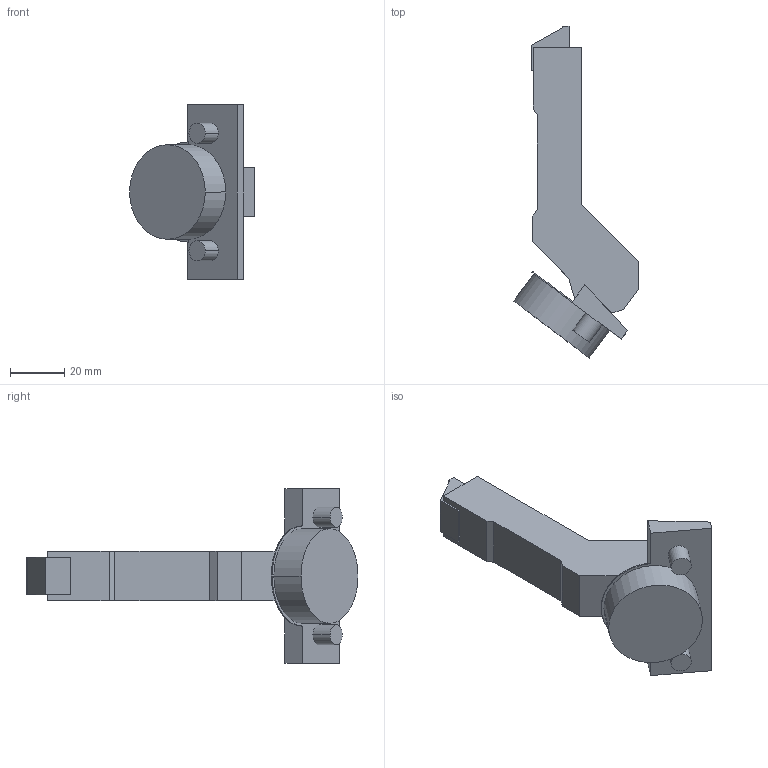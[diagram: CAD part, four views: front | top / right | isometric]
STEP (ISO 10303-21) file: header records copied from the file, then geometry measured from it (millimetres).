
FILE_DESCRIPTION (( 'STEP AP214' ), '1' );
FILE_NAME ('Scharnier T Impresso 110°_+37° GB_BB, einliegend.step', '2010-12-13T10:22:16', ( 'grass' ), ( '' ), 'SwSTEP 2.0', 'SolidWorks 2010', '' );
FILE_SCHEMA (( 'AUTOMOTIVE_DESIGN' ));
Length unit declared in the file: millimetre
Products named in the file (1): Scharnier T Impresso 110°_+37° GB_BB, einliegend
Bounding box: 46.13 x 122.73 x 64.5 mm (x, y, z)
Volume: 57976.6 mm3; surface area: 15047.7 mm2
Topology: 1 solids, 3 shells, 61 faces, 147 edges, 98 vertices
Faces by surface type: plane 43, cylinder 18
Entity records: 1807 total; most frequent: CARTESIAN_POINT 307, DIRECTION 307, ORIENTED_EDGE 294, EDGE_CURVE 147, LINE 111, VECTOR 111, VERTEX_POINT 98, AXIS2_PLACEMENT_3D 98
